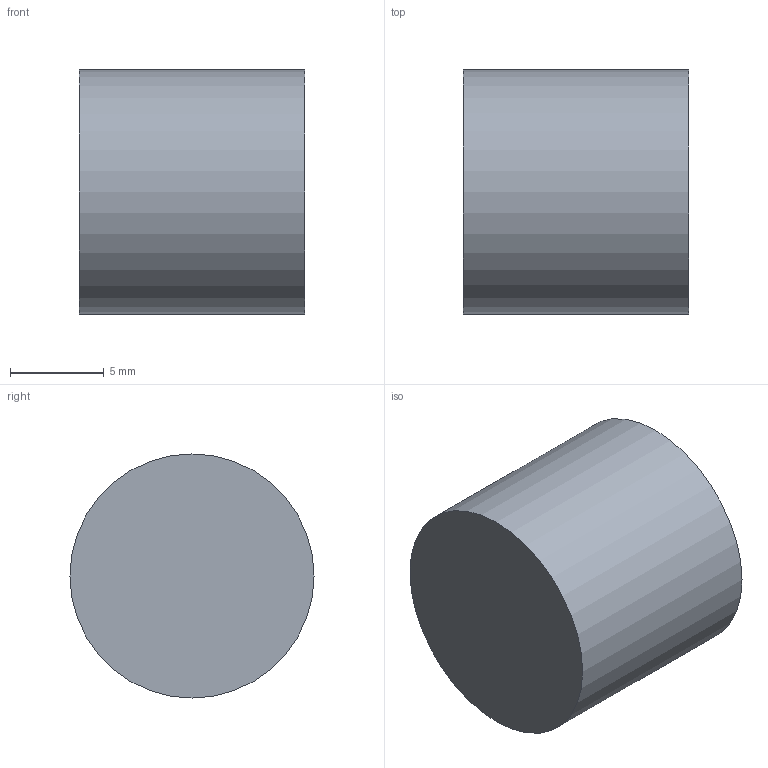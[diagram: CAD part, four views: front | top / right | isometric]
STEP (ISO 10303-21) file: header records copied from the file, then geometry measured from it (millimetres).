
FILE_DESCRIPTION(('FreeCAD Model'),'2;1');
FILE_NAME('Open CASCADE Shape Model','2026-10-05T09:22:56',('Author'),( ''),'Open CASCADE STEP processor 7.8','FreeCAD','Unknown');
FILE_SCHEMA(('AUTOMOTIVE_DESIGN { 1 0 10303 214 1 1 1 1 }'));
Length unit declared in the file: millimetre
Products named in the file (1): middleMCPUniversal
Bounding box: 12 x 13 x 13 mm (x, y, z)
Volume: 1592.8 mm3; surface area: 755.6 mm2
Topology: 1 solids, 1 shells, 3 faces, 3 edges, 2 vertices
Faces by surface type: plane 2, cylinder 1
Full cylindrical faces by diameter (mm): 13 x1
Entity records: 69 total; most frequent: DIRECTION 13, CARTESIAN_POINT 9, AXIS2_PLACEMENT_3D 6, ORIENTED_EDGE 6, ADVANCED_FACE 3, FACE_BOUND 3, EDGE_LOOP 3, EDGE_CURVE 3
